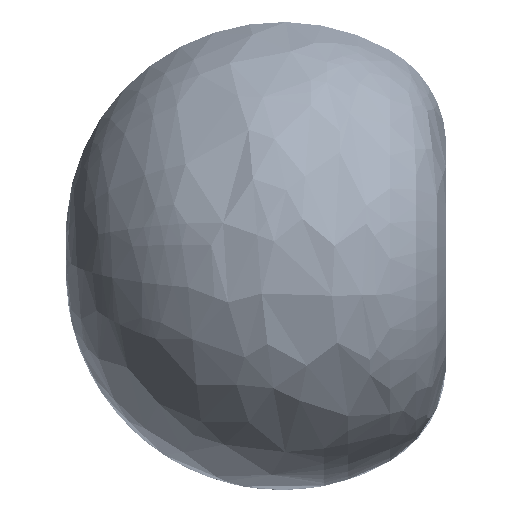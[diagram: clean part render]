
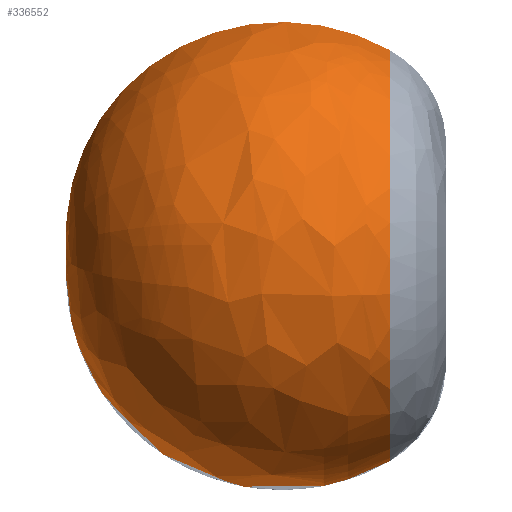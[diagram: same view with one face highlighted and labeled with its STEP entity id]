
A CAD part, left-side view. The second image highlights one B-rep face of the part: STEP entity #336552.
In plain terms, the highlighted free-form (B-spline) face has degree [3, 3] with [7, 4] control points.
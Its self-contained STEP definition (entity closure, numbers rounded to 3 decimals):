
#336402=CARTESIAN_POINT('',(-33.518,538.,145.181));
#336403=DIRECTION('',(-0.974,0.,-0.225));
#336404=DIRECTION('',(-0.195,-0.5,0.844));
#336405=AXIS2_PLACEMENT_3D('',#336402,#336403,#336404);
#336431=CARTESIAN_POINT('',(0.,-222.482,0.));
#336432=DIRECTION('',(0.,-1.,0.));
#336433=DIRECTION('',(-0.225,0.,0.974));
#336434=AXIS2_PLACEMENT_3D('',#336431,#336432,#336433);
#336451=CARTESIAN_POINT('',(33.518,538.,145.181));
#336452=DIRECTION('',(-0.974,0.,0.225));
#336453=DIRECTION('',(0.195,-0.5,0.844));
#336454=AXIS2_PLACEMENT_3D('',#336451,#336452,#336453);
#336476=CARTESIAN_POINT('',(-330.084,-222.482,
1429.749));
#336477=CARTESIAN_POINT('',(0.,2052.661,
0.));
#336478=VERTEX_POINT('',#336476);
#336479=VERTEX_POINT('',#336477);
#336488=CARTESIAN_POINT('',(330.084,-222.482,
1429.749));
#336489=VERTEX_POINT('',#336488);
#336516=CARTESIAN_POINT('',(157.72,-279.532,
1424.053));
#336517=CARTESIAN_POINT('',(244.037,951.765,
2203.409));
#336518=CARTESIAN_POINT('',(159.922,2195.572,
1443.932));
#336519=CARTESIAN_POINT('',(0.,2052.661,
0.));
#336520=CARTESIAN_POINT('',(2719.106,-279.532,
1140.369));
#336521=CARTESIAN_POINT('',(4207.218,951.765,
1764.469));
#336522=CARTESIAN_POINT('',(2757.062,2195.572,
1156.287));
#336523=CARTESIAN_POINT('',(0.,2052.661,
0.));
#336524=CARTESIAN_POINT('',(2577.048,-279.532,
-1432.761));
#336525=CARTESIAN_POINT('',(3987.414,951.765,
-2216.882));
#336526=CARTESIAN_POINT('',(2613.021,2195.572,
-1452.761));
#336527=CARTESIAN_POINT('',(0.,2052.661,
0.));
#336528=CARTESIAN_POINT('',(0.,-279.532,
-1432.761));
#336529=CARTESIAN_POINT('',(0.,951.765,
-2216.882));
#336530=CARTESIAN_POINT('',(0.,2195.572,
-1452.761));
#336531=CARTESIAN_POINT('',(0.,2052.661,
0.));
#336532=CARTESIAN_POINT('',(-2577.048,-279.532,
-1432.761));
#336533=CARTESIAN_POINT('',(-3987.414,951.765,
-2216.882));
#336534=CARTESIAN_POINT('',(-2613.021,2195.572,
-1452.761));
#336535=CARTESIAN_POINT('',(0.,2052.661,
0.));
#336536=CARTESIAN_POINT('',(-2719.106,-279.532,
1140.369));
#336537=CARTESIAN_POINT('',(-4207.218,951.765,
1764.469));
#336538=CARTESIAN_POINT('',(-2757.062,2195.572,
1156.287));
#336539=CARTESIAN_POINT('',(0.,2052.661,
0.));
#336540=CARTESIAN_POINT('',(-157.72,-279.532,
1424.053));
#336541=CARTESIAN_POINT('',(-244.037,951.765,
2203.409));
#336542=CARTESIAN_POINT('',(-159.922,2195.572,
1443.932));
#336543=CARTESIAN_POINT('',(0.,2052.661,
0.));
#336544=(BOUNDED_SURFACE()B_SPLINE_SURFACE(3,3,((#336516,#336517,#336518,
#336519),(#336520,#336521,#336522,#336523),(#336524,#336525,#336526,#336527),(
#336528,#336529,#336530,#336531),(#336532,#336533,#336534,#336535),(#336536,
#336537,#336538,#336539),(#336540,#336541,#336542,#336543)),.UNSPECIFIED.,.F.,
.F.,.F.)B_SPLINE_SURFACE_WITH_KNOTS((4,3,4),(4,4),(0.,1.,2.),(0.,1.),
.UNSPECIFIED.)GEOMETRIC_REPRESENTATION_ITEM()RATIONAL_B_SPLINE_SURFACE(((
2.637,1.648,1.648,2.637),(
0.976,0.61,0.61,0.976),(
0.976,0.61,0.61,0.976),(
2.637,1.648,1.648,2.637),(
0.976,0.61,0.61,0.976),(
0.976,0.61,0.61,0.976),(
2.637,1.648,1.648,2.637)))REPRESENTATION_ITEM('')SURFACE());
#336545=ORIENTED_EDGE('',*,*,#336501,.F.);
#336547=ORIENTED_EDGE('',*,*,#336546,.T.);
#336549=ORIENTED_EDGE('',*,*,#336548,.T.);
#336550=EDGE_LOOP('',(#336545,#336547,#336549));
#336551=FACE_OUTER_BOUND('',#336550,.F.);
#336552=ADVANCED_FACE('',(#336551),#336544,.T.);
#336406=CIRCLE('',#336405,1521.972);
#336435=CIRCLE('',#336434,1467.358);
#336455=CIRCLE('',#336454,1521.972);
#336501=EDGE_CURVE('',#336478,#336479,#336406,.T.);
#336546=EDGE_CURVE('',#336478,#336489,#336435,.T.);
#336548=EDGE_CURVE('',#336489,#336479,#336455,.T.);
